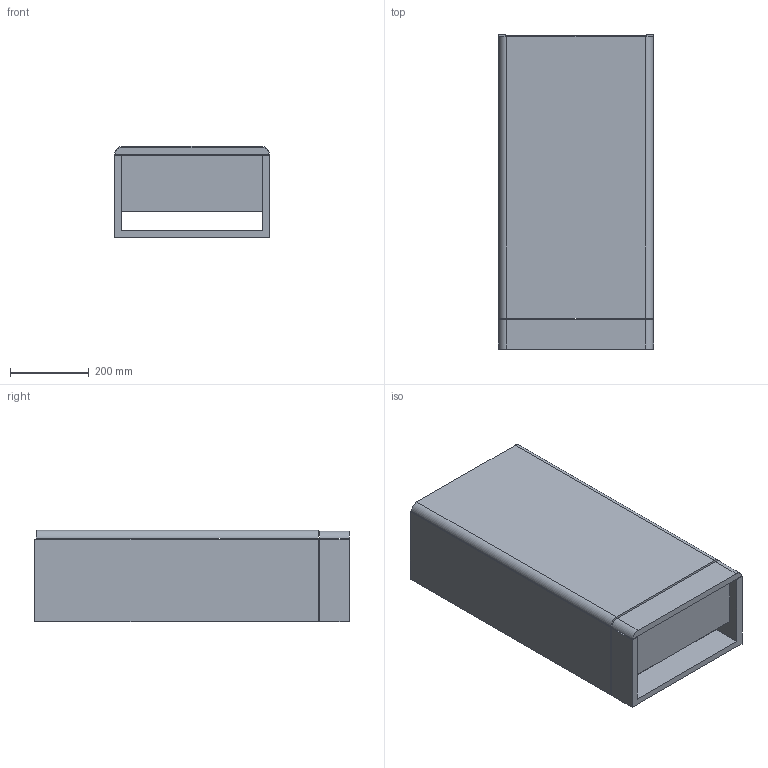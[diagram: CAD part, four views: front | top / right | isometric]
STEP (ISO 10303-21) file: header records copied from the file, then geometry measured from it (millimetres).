
FILE_DESCRIPTION(('FreeCAD Model'),'2;1');
FILE_NAME('Open CASCADE Shape Model','2025-05-30T18:15:56',(''),(''), 'Open CASCADE STEP processor 7.8','FreeCAD','Unknown');
FILE_SCHEMA(('AUTOMOTIVE_DESIGN { 1 0 10303 214 1 1 1 1 }'));
Length unit declared in the file: millimetre
Products named in the file (6): TopLevelAssembly; Po\X2\01420105\X0\czona geometria bry\X2\0142\X0\owa004; Po\X2\01420105\X0\czona geometria bry\X2\0142\X0\owa; Po\X2\01420105\X0\czona geometria bry\X2\0142\X0\owa001; Po\X2\01420105\X0\czona geometria bry\X2\0142\X0\owa002; Po\X2\01420105\X0\czona geometria bry\X2\0142\X0\owa003
Assembly tree (5 placements, depth 3):
  TopLevelAssembly
    Po\X2\01420105\X0\czona geometria bry\X2\0142\X0\owa004
      Po\X2\01420105\X0\czona geometria bry\X2\0142\X0\owa
      Po\X2\01420105\X0\czona geometria bry\X2\0142\X0\owa001
      Po\X2\01420105\X0\czona geometria bry\X2\0142\X0\owa002
      Po\X2\01420105\X0\czona geometria bry\X2\0142\X0\owa003
Bounding box: 395 x 800 x 232 mm (x, y, z)
Volume: 15390758.4 mm3; surface area: 1675878.3 mm2
Topology: 4 solids, 4 shells, 45 faces, 108 edges, 72 vertices
Faces by surface type: plane 41, cylinder 4
Entity records: 1430 total; most frequent: CARTESIAN_POINT 231, DIRECTION 218, ORIENTED_EDGE 216, EDGE_CURVE 108, LINE 100, VECTOR 100, VERTEX_POINT 72, AXIS2_PLACEMENT_3D 59
